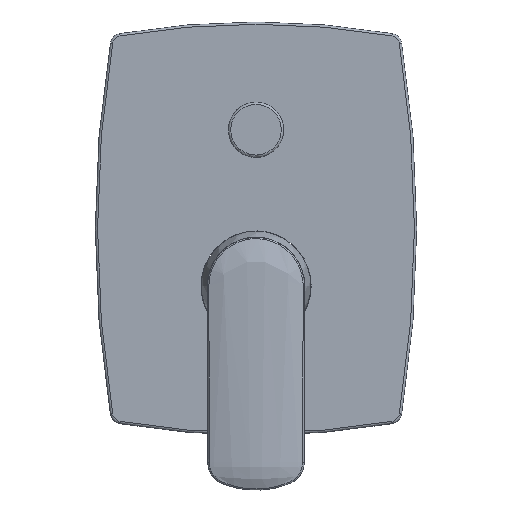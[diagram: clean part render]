
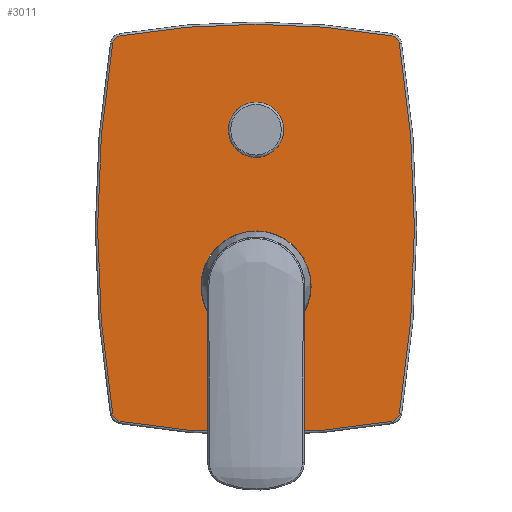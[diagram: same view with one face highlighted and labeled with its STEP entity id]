
A CAD part, top view. The second image highlights one B-rep face of the part: STEP entity #3011.
In plain terms, the highlighted planar face has unit normal (0, 0, 1).
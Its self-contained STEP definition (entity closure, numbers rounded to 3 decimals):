
#574=FACE_BOUND('',#792,.T.);
#575=FACE_BOUND('',#793,.T.);
#619=FACE_OUTER_BOUND('',#791,.T.);
#791=EDGE_LOOP('',(#2091,#2092,#2093,#2094,#2095,#2096,#2097,#2098));
#792=EDGE_LOOP('',(#2099,#2100));
#793=EDGE_LOOP('',(#2101,#2102));
#972=CIRCLE('',#3195,4.);
#975=CIRCLE('',#3199,4.);
#979=CIRCLE('',#3204,349.);
#982=CIRCLE('',#3208,4.);
#985=CIRCLE('',#3212,499.);
#988=CIRCLE('',#3216,4.);
#991=CIRCLE('',#3220,349.);
#994=CIRCLE('',#3231,499.);
#995=CIRCLE('',#3233,24.);
#998=CIRCLE('',#3236,24.);
#1007=CIRCLE('',#3254,9.25);
#1008=CIRCLE('',#3255,9.25);
#1170=VERTEX_POINT('',#4337);
#1171=VERTEX_POINT('',#4338);
#1172=VERTEX_POINT('',#4343);
#1173=VERTEX_POINT('',#4344);
#1176=VERTEX_POINT('',#4352);
#1178=VERTEX_POINT('',#4358);
#1180=VERTEX_POINT('',#4364);
#1182=VERTEX_POINT('',#4370);
#1184=VERTEX_POINT('',#4395);
#1185=VERTEX_POINT('',#4396);
#1196=VERTEX_POINT('',#4437);
#1197=VERTEX_POINT('',#4438);
#1506=EDGE_CURVE('',#1170,#1171,#972,.T.);
#1509=EDGE_CURVE('',#1172,#1173,#975,.T.);
#1513=EDGE_CURVE('',#1173,#1176,#979,.T.);
#1516=EDGE_CURVE('',#1176,#1178,#982,.T.);
#1519=EDGE_CURVE('',#1178,#1180,#985,.T.);
#1522=EDGE_CURVE('',#1180,#1182,#988,.T.);
#1525=EDGE_CURVE('',#1182,#1170,#991,.T.);
#1534=EDGE_CURVE('',#1171,#1172,#994,.T.);
#1535=EDGE_CURVE('',#1184,#1185,#995,.T.);
#1539=EDGE_CURVE('',#1185,#1184,#998,.T.);
#1556=EDGE_CURVE('',#1196,#1197,#1007,.T.);
#1557=EDGE_CURVE('',#1197,#1196,#1008,.T.);
#2091=ORIENTED_EDGE('',*,*,#1509,.T.);
#2092=ORIENTED_EDGE('',*,*,#1513,.T.);
#2093=ORIENTED_EDGE('',*,*,#1516,.T.);
#2094=ORIENTED_EDGE('',*,*,#1519,.T.);
#2095=ORIENTED_EDGE('',*,*,#1522,.T.);
#2096=ORIENTED_EDGE('',*,*,#1525,.T.);
#2097=ORIENTED_EDGE('',*,*,#1506,.T.);
#2098=ORIENTED_EDGE('',*,*,#1534,.T.);
#2099=ORIENTED_EDGE('',*,*,#1535,.F.);
#2100=ORIENTED_EDGE('',*,*,#1539,.F.);
#2101=ORIENTED_EDGE('',*,*,#1556,.T.);
#2102=ORIENTED_EDGE('',*,*,#1557,.T.);
#2946=PLANE('',#3253);
#3011=ADVANCED_FACE('',(#619,#574,#575),#2946,.T.);
#3195=AXIS2_PLACEMENT_3D('',#4339,#3549,#3550);
#3199=AXIS2_PLACEMENT_3D('',#4345,#3557,#3558);
#3204=AXIS2_PLACEMENT_3D('',#4353,#3567,#3568);
#3208=AXIS2_PLACEMENT_3D('',#4359,#3575,#3576);
#3212=AXIS2_PLACEMENT_3D('',#4365,#3583,#3584);
#3216=AXIS2_PLACEMENT_3D('',#4371,#3591,#3592);
#3220=AXIS2_PLACEMENT_3D('',#4376,#3599,#3600);
#3231=AXIS2_PLACEMENT_3D('',#4393,#3627,#3628);
#3233=AXIS2_PLACEMENT_3D('',#4397,#3631,#3632);
#3236=AXIS2_PLACEMENT_3D('',#4403,#3638,#3639);
#3253=AXIS2_PLACEMENT_3D('',#4436,#3680,#3681);
#3254=AXIS2_PLACEMENT_3D('',#4439,#3682,#3683);
#3255=AXIS2_PLACEMENT_3D('',#4440,#3684,#3685);
#3549=DIRECTION('center_axis',(0.,0.,
1.));
#3550=DIRECTION('ref_axis',(0.17,-0.986,0.));
#3557=DIRECTION('center_axis',(0.,0.,
1.));
#3558=DIRECTION('ref_axis',(0.987,0.162,0.));
#3567=DIRECTION('center_axis',(0.,0.,
1.));
#3568=DIRECTION('ref_axis',(0.17,0.986,0.));
#3575=DIRECTION('center_axis',(0.,0.,
1.));
#3576=DIRECTION('ref_axis',(-0.17,0.986,0.));
#3583=DIRECTION('center_axis',(0.,0.,
1.));
#3584=DIRECTION('ref_axis',(-0.987,0.162,0.));
#3591=DIRECTION('center_axis',(0.,0.,
1.));
#3592=DIRECTION('ref_axis',(-0.987,-0.162,0.));
#3599=DIRECTION('center_axis',(0.,0.,
1.));
#3600=DIRECTION('ref_axis',(-0.17,-0.986,0.));
#3627=DIRECTION('center_axis',(0.,0.,
1.));
#3628=DIRECTION('ref_axis',(0.987,-0.162,0.));
#3631=DIRECTION('center_axis',(0.,0.,
1.));
#3632=DIRECTION('ref_axis',(1.,0.,0.));
#3638=DIRECTION('center_axis',(0.,0.,
1.));
#3639=DIRECTION('ref_axis',(1.,0.,0.));
#3680=DIRECTION('center_axis',(0.,0.,
1.));
#3681=DIRECTION('ref_axis',(1.,0.,0.));
#3682=DIRECTION('center_axis',(0.,0.,
-1.));
#3683=DIRECTION('ref_axis',(-1.,0.,0.));
#3684=DIRECTION('center_axis',(0.,0.,
-1.));
#3685=DIRECTION('ref_axis',(-1.,0.,0.));
#4337=CARTESIAN_POINT('',(160.17,-55.448,-32.));
#4338=CARTESIAN_POINT('',(163.439,-52.152,-32.));
#4339=CARTESIAN_POINT('Origin',(159.492,-51.505,-32.));
#4343=CARTESIAN_POINT('',(163.439,109.152,-32.));
#4344=CARTESIAN_POINT('',(160.17,112.448,-32.));
#4345=CARTESIAN_POINT('Origin',(159.492,108.505,-32.));
#4352=CARTESIAN_POINT('',(41.83,112.448,-32.));
#4353=CARTESIAN_POINT('Origin',(101.,-231.5,-32.));
#4358=CARTESIAN_POINT('',(38.561,109.152,-32.));
#4359=CARTESIAN_POINT('Origin',(42.508,108.505,-32.));
#4364=CARTESIAN_POINT('',(38.561,-52.152,-32.));
#4365=CARTESIAN_POINT('Origin',(531.,28.5,-32.));
#4370=CARTESIAN_POINT('',(41.83,-55.448,-32.));
#4371=CARTESIAN_POINT('Origin',(42.508,-51.505,-32.));
#4376=CARTESIAN_POINT('Origin',(101.,288.5,-32.));
#4393=CARTESIAN_POINT('Origin',(-329.,28.5,-32.));
#4395=CARTESIAN_POINT('',(125.,3.5,-32.));
#4396=CARTESIAN_POINT('',(77.047,5.007,-32.));
#4397=CARTESIAN_POINT('Origin',(101.,3.5,-32.));
#4403=CARTESIAN_POINT('Origin',(101.,3.5,-32.));
#4436=CARTESIAN_POINT('Origin',(101.,-64.123,-32.));
#4437=CARTESIAN_POINT('',(110.25,71.5,-32.));
#4438=CARTESIAN_POINT('',(91.768,72.081,-32.));
#4439=CARTESIAN_POINT('Origin',(101.,71.5,-32.));
#4440=CARTESIAN_POINT('Origin',(101.,71.5,-32.));
